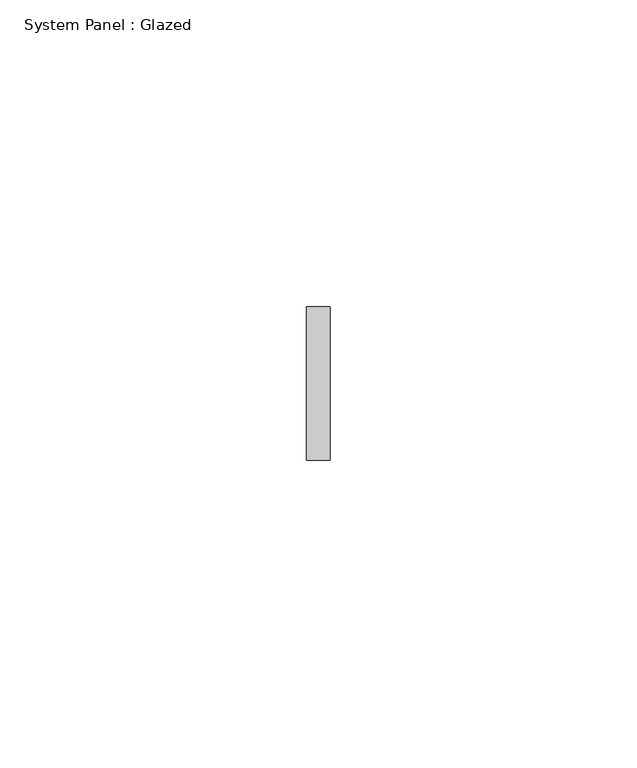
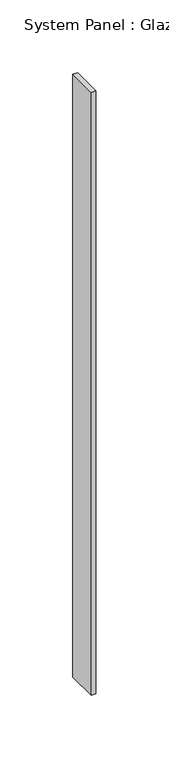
"""IFC4 building model written with IfcOpenShell, lengths in millimetres: plate geometry, System Panel : Glazed."""

from ifc_helpers import new_model, si_unit, origin, origin_with_axes, place, context, project, spatial, polyline, outline, extrude, source, transform, mapped, element, save


def system_panel_glazed_72658598(model_context):
    return source(origin(), model_context, "Body", "SweptSolid", [
        extrude(outline(polyline([(1.9081169, -12.5), (-1.9081169, -12.5), (-1.9081169, 12.5), (1.9081169, 12.5), (1.9081169, -12.5)])), origin_with_axes(), (0.0, 0.0, 1.0), 505.0),
    ])


if __name__ == "__main__":
    model = new_model("IFC4")
    model_context = context("Model", 3, world=origin())
    ifc_project = project(units=[si_unit("LENGTHUNIT", "METRE", prefix="MILLI")], contexts=[model_context])
    site = spatial("IfcSite", under=ifc_project)
    building = spatial("IfcBuilding", under=site)
    placement = place(None, origin())
    system_panel_glazed_shape = system_panel_glazed_72658598(model_context)
    element("IfcPlate", 1, ObjectType="System Panel : Glazed", at=placement, inside=building, context=model_context, shape_type="MappedRepresentation", body=[
        mapped(system_panel_glazed_shape, transform((0.0, 0.0, 0.0), x_axis=(1.0, 0.0, 0.0), y_axis=(0.0, 1.0, 0.0), z_axis=(0.0, 0.0, 1.0))),
    ])
    save(model, "model.ifc")
